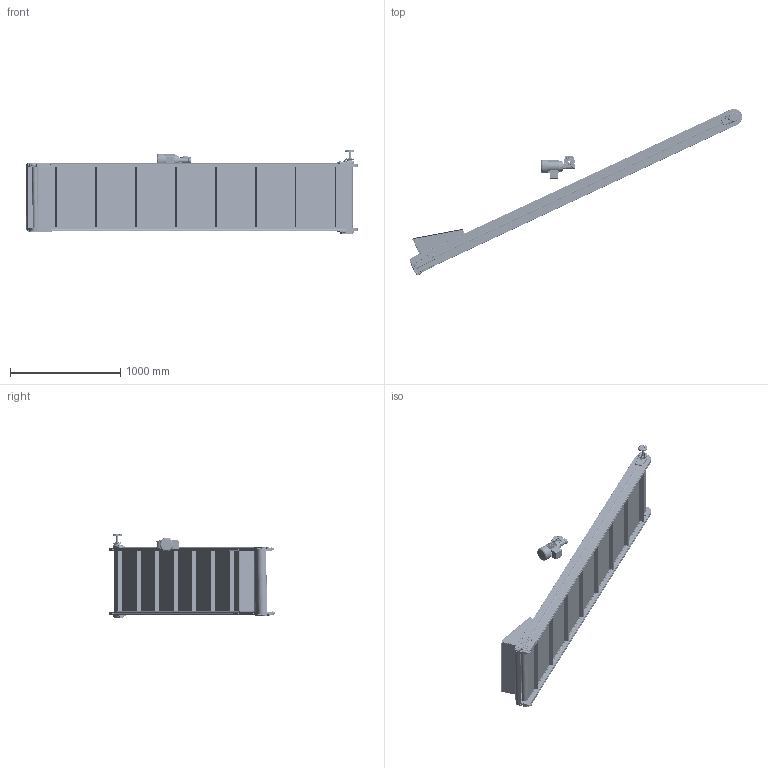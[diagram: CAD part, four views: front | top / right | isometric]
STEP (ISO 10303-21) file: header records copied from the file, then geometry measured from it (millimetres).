
FILE_DESCRIPTION (( 'STEP AP203' ), '1' );
FILE_NAME ('NASTRO_STAMPAGGIO_PLASTICA.step', '2026-06-04T15:26:32', ( 'Utente Windows' ), ( '' ), 'SwSTEP 2.0', 'SolidWorks 2024', '' );
FILE_SCHEMA (( 'CONFIG_CONTROL_DESIGN' ));
Length unit declared in the file: millimetre
Products named in the file (39): 084.831.050; 361102 serie 36; NASTRO_STAMPAGGIO_PLASTICA; VITI TE UNI 5739_M6x16 UNI 5739; RONDELLE UNI 6592_6.4x12.5 UNI 6592; TAPPETO_D; 084.831.017; RONDELLE FASCIA LARGA UNI 6593_6.4x24 UNI 6593; VITI TESTA BOMBATA ISO 730 INOX_M5x10 ISO 7380 INOX; 084.301.000 VITI ALUSIC_084.301.003; RONDELLE UNI 6592_8.4x17 UNI 6592; DADI ESAGONALI NORMALI UNI 5588_M5 UNI 5588; 084.831.062; 084.831.040.550; 0412TRSEA2; CHIAVETTE_A 6x6x60 UNI 6604-69; 084.808.012; 084.302.000 DADI ALUSIC 13x13-1_084.302.009; 084.831.001_Default<A macchina>; CH04P_DX; VITI TE UNI 5739_M8x12 UNI 5739; VITI TE UNI 5739_M6x120 UNI5739; 084.802.071; 084.831.063; 084.802.062; 084.831.KD.44.550_DX; 084.831.047; VITI TCEI UNI 5931_M5x12 UNI 5931; 084.803.018; 084.802.061; 084.831.023; TELAIO_D_Default<A macchina>; 084.831.KI.550; 084.831.018.600; 084.831.003.550; 084.831.004; 084.802.034_084.802.034; 084.831.064; 084.831.024
Assembly tree (95 placements, depth 3):
  NASTRO_STAMPAGGIO_PLASTICA
    TAPPETO_D
    TELAIO_D_Default<A macchina>
    084.831.KD.44.550_DX
      084.831.004  x2
      084.831.047
      084.831.017  x2
      084.802.071
      084.301.000 VITI ALUSIC_084.301.003
      084.802.034_084.802.034  x2
      084.802.061
      VITI TE UNI 5739_M6x16 UNI 5739  x5
      CHIAVETTE_A 6x6x60 UNI 6604-69
      RONDELLE FASCIA LARGA UNI 6593_6.4x24 UNI 6593
      084.808.012
      RONDELLE UNI 6592_8.4x17 UNI 6592
      084.802.062
      084.803.018
      0412TRSEA2  x10
      VITI TCEI UNI 5931_M5x12 UNI 5931  x4
    CH04P_DX
    084.831.003.550
      084.831.064
      084.831.062
      084.831.063
      VITI TESTA BOMBATA ISO 730 INOX_M5x10 ISO 7380 INOX  x6
      DADI ESAGONALI NORMALI UNI 5588_M5 UNI 5588  x6
      VITI TE UNI 5739_M8x12 UNI 5739  x4
      084.302.000 DADI ALUSIC 13x13-1_084.302.009  x4
    084.831.KI.550
      084.831.001_Default<A macchina>  x2
      084.831.024  x2
      361102 serie 36  x2
      084.831.018.600
      VITI TE UNI 5739_M6x120 UNI5739  x2
      RONDELLE UNI 6592_6.4x12.5 UNI 6592  x2
      084.301.000 VITI ALUSIC_084.301.003  x2
      084.831.050
      084.831.040.550
      084.831.023  x4
      0412TRSEA2  x12
Bounding box: 3012.52 x 1507.42 x 766.5 mm (x, y, z)
Volume: 24677002.6 mm3; surface area: 20347168 mm2
Topology: 133 solids, 140 shells, 9709 faces, 25802 edges, 16501 vertices
Faces by surface type: plane 4138, cylinder 2933, cone 1264, bspline 833, torus 417, sphere 124
Entity records: 228304 total; most frequent: CARTESIAN_POINT 73027, ORIENTED_EDGE 33108, DIRECTION 29344, EDGE_CURVE 16554, VERTEX_POINT 10638, AXIS2_PLACEMENT_3D 10373, LINE 8598, VECTOR 8598
